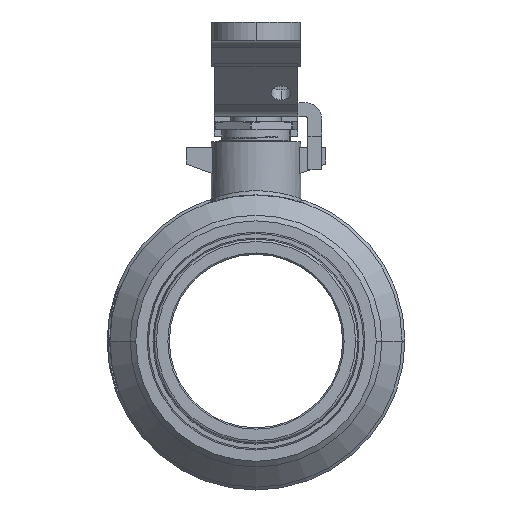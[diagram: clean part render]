
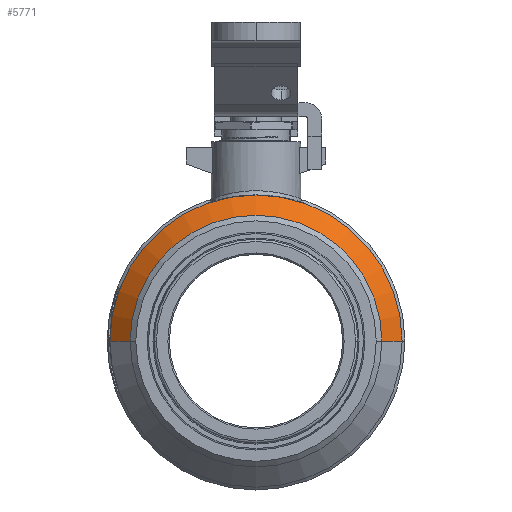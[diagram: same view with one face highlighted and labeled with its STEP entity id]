
A CAD part, left-side view. The second image highlights one B-rep face of the part: STEP entity #5771.
In plain terms, the highlighted conical face has half-angle 45 degrees and reference radius 45 mm.
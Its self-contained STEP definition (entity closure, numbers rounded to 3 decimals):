
#799 = CYLINDRICAL_SURFACE('',#800,52.25);
#800 = AXIS2_PLACEMENT_3D('',#801,#802,#803);
#801 = CARTESIAN_POINT('',(-130.5,0.,0.
    ));
#802 = DIRECTION('',(-1.,0.,0.));
#803 = DIRECTION('',(-0.,-1.,0.));
#5771 = ADVANCED_FACE('',(#5772),#5787,.T.);
#5772 = FACE_BOUND('',#5773,.T.);
#5773 = EDGE_LOOP('',(#5774,#5810,#5838,#5862));
#5774 = ORIENTED_EDGE('',*,*,#5775,.F.);
#5775 = EDGE_CURVE('',#5776,#5778,#5780,.T.);
#5776 = VERTEX_POINT('',#5777);
#5777 = CARTESIAN_POINT('',(-33.75,-45.,
    0.));
#5778 = VERTEX_POINT('',#5779);
#5779 = CARTESIAN_POINT('',(-33.75,45.,
    0.));
#5780 = SURFACE_CURVE('',#5781,(#5786,#5798),.PCURVE_S1.);
#5781 = CIRCLE('',#5782,45.);
#5782 = AXIS2_PLACEMENT_3D('',#5783,#5784,#5785);
#5783 = CARTESIAN_POINT('',(-33.75,0.,
    0.));
#5784 = DIRECTION('',(-1.,0.,0.));
#5785 = DIRECTION('',(-0.,-1.,0.));
#5786 = PCURVE('',#5787,#5792);
#5787 = CONICAL_SURFACE('',#5788,45.,0.785);
#5788 = AXIS2_PLACEMENT_3D('',#5789,#5790,#5791);
#5789 = CARTESIAN_POINT('',(-33.75,0.,
    0.));
#5790 = DIRECTION('',(1.,0.,0.));
#5791 = DIRECTION('',(-0.,1.,0.));
#5792 = DEFINITIONAL_REPRESENTATION('',(#5793),#5797);
#5793 = LINE('',#5794,#5795);
#5794 = CARTESIAN_POINT('',(3.142,0.));
#5795 = VECTOR('',#5796,1.);
#5796 = DIRECTION('',(-1.,0.));
#5797 = ( GEOMETRIC_REPRESENTATION_CONTEXT(2) 
PARAMETRIC_REPRESENTATION_CONTEXT() REPRESENTATION_CONTEXT('2D SPACE',''
  ) );
#5798 = PCURVE('',#5799,#5804);
#5799 = CYLINDRICAL_SURFACE('',#5800,45.);
#5800 = AXIS2_PLACEMENT_3D('',#5801,#5802,#5803);
#5801 = CARTESIAN_POINT('',(-130.5,0.,
    0.));
#5802 = DIRECTION('',(-1.,0.,0.));
#5803 = DIRECTION('',(-0.,-1.,0.));
#5804 = DEFINITIONAL_REPRESENTATION('',(#5805),#5809);
#5805 = LINE('',#5806,#5807);
#5806 = CARTESIAN_POINT('',(0.,-96.75));
#5807 = VECTOR('',#5808,1.);
#5808 = DIRECTION('',(1.,0.));
#5809 = ( GEOMETRIC_REPRESENTATION_CONTEXT(2) 
PARAMETRIC_REPRESENTATION_CONTEXT() REPRESENTATION_CONTEXT('2D SPACE',''
  ) );
#5810 = ORIENTED_EDGE('',*,*,#5811,.T.);
#5811 = EDGE_CURVE('',#5776,#5812,#5814,.T.);
#5812 = VERTEX_POINT('',#5813);
#5813 = CARTESIAN_POINT('',(-26.5,-52.25,0.));
#5814 = SURFACE_CURVE('',#5815,(#5819,#5826),.PCURVE_S1.);
#5815 = LINE('',#5816,#5817);
#5816 = CARTESIAN_POINT('',(-33.75,-45.,
    0.));
#5817 = VECTOR('',#5818,1.);
#5818 = DIRECTION('',(0.707,-0.707,0.
    ));
#5819 = PCURVE('',#5787,#5820);
#5820 = DEFINITIONAL_REPRESENTATION('',(#5821),#5825);
#5821 = LINE('',#5822,#5823);
#5822 = CARTESIAN_POINT('',(3.142,0.));
#5823 = VECTOR('',#5824,1.);
#5824 = DIRECTION('',(0.,1.));
#5825 = ( GEOMETRIC_REPRESENTATION_CONTEXT(2) 
PARAMETRIC_REPRESENTATION_CONTEXT() REPRESENTATION_CONTEXT('2D SPACE',''
  ) );
#5826 = PCURVE('',#5827,#5832);
#5827 = CONICAL_SURFACE('',#5828,45.,0.785);
#5828 = AXIS2_PLACEMENT_3D('',#5829,#5830,#5831);
#5829 = CARTESIAN_POINT('',(-33.75,0.,
    0.));
#5830 = DIRECTION('',(1.,0.,0.));
#5831 = DIRECTION('',(-0.,1.,0.));
#5832 = DEFINITIONAL_REPRESENTATION('',(#5833),#5837);
#5833 = LINE('',#5834,#5835);
#5834 = CARTESIAN_POINT('',(3.142,0.));
#5835 = VECTOR('',#5836,1.);
#5836 = DIRECTION('',(0.,1.));
#5837 = ( GEOMETRIC_REPRESENTATION_CONTEXT(2) 
PARAMETRIC_REPRESENTATION_CONTEXT() REPRESENTATION_CONTEXT('2D SPACE',''
  ) );
#5838 = ORIENTED_EDGE('',*,*,#5839,.T.);
#5839 = EDGE_CURVE('',#5812,#5840,#5842,.T.);
#5840 = VERTEX_POINT('',#5841);
#5841 = CARTESIAN_POINT('',(-26.5,52.25,0.));
#5842 = SURFACE_CURVE('',#5843,(#5848,#5855),.PCURVE_S1.);
#5843 = CIRCLE('',#5844,52.25);
#5844 = AXIS2_PLACEMENT_3D('',#5845,#5846,#5847);
#5845 = CARTESIAN_POINT('',(-26.5,0.,0.
    ));
#5846 = DIRECTION('',(-1.,0.,0.));
#5847 = DIRECTION('',(-0.,-1.,0.));
#5848 = PCURVE('',#5787,#5849);
#5849 = DEFINITIONAL_REPRESENTATION('',(#5850),#5854);
#5850 = LINE('',#5851,#5852);
#5851 = CARTESIAN_POINT('',(3.142,7.25));
#5852 = VECTOR('',#5853,1.);
#5853 = DIRECTION('',(-1.,0.));
#5854 = ( GEOMETRIC_REPRESENTATION_CONTEXT(2) 
PARAMETRIC_REPRESENTATION_CONTEXT() REPRESENTATION_CONTEXT('2D SPACE',''
  ) );
#5855 = PCURVE('',#799,#5856);
#5856 = DEFINITIONAL_REPRESENTATION('',(#5857),#5861);
#5857 = LINE('',#5858,#5859);
#5858 = CARTESIAN_POINT('',(0.,-104.));
#5859 = VECTOR('',#5860,1.);
#5860 = DIRECTION('',(1.,0.));
#5861 = ( GEOMETRIC_REPRESENTATION_CONTEXT(2) 
PARAMETRIC_REPRESENTATION_CONTEXT() REPRESENTATION_CONTEXT('2D SPACE',''
  ) );
#5862 = ORIENTED_EDGE('',*,*,#5863,.F.);
#5863 = EDGE_CURVE('',#5778,#5840,#5864,.T.);
#5864 = SURFACE_CURVE('',#5865,(#5869,#5876),.PCURVE_S1.);
#5865 = LINE('',#5866,#5867);
#5866 = CARTESIAN_POINT('',(-33.75,45.,
    0.));
#5867 = VECTOR('',#5868,1.);
#5868 = DIRECTION('',(0.707,0.707,0.)
  );
#5869 = PCURVE('',#5787,#5870);
#5870 = DEFINITIONAL_REPRESENTATION('',(#5871),#5875);
#5871 = LINE('',#5872,#5873);
#5872 = CARTESIAN_POINT('',(0.,0.));
#5873 = VECTOR('',#5874,1.);
#5874 = DIRECTION('',(0.,1.));
#5875 = ( GEOMETRIC_REPRESENTATION_CONTEXT(2) 
PARAMETRIC_REPRESENTATION_CONTEXT() REPRESENTATION_CONTEXT('2D SPACE',''
  ) );
#5876 = PCURVE('',#5827,#5877);
#5877 = DEFINITIONAL_REPRESENTATION('',(#5878),#5882);
#5878 = LINE('',#5879,#5880);
#5879 = CARTESIAN_POINT('',(6.283,0.));
#5880 = VECTOR('',#5881,1.);
#5881 = DIRECTION('',(0.,1.));
#5882 = ( GEOMETRIC_REPRESENTATION_CONTEXT(2) 
PARAMETRIC_REPRESENTATION_CONTEXT() REPRESENTATION_CONTEXT('2D SPACE',''
  ) );
